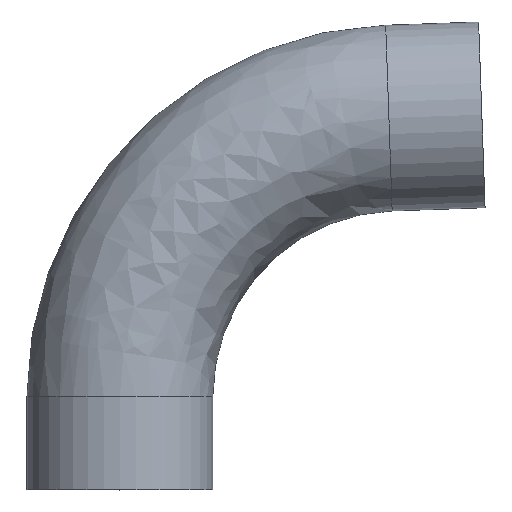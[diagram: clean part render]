
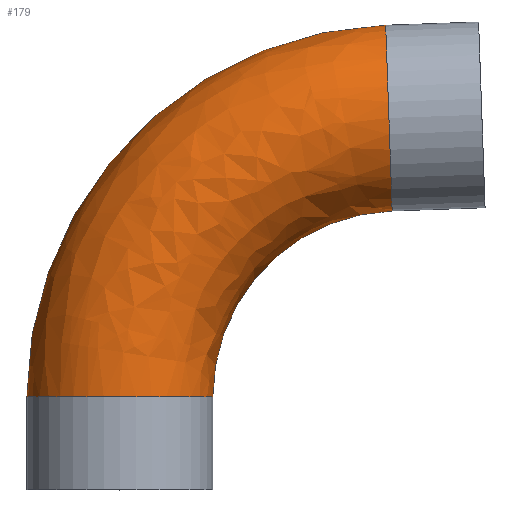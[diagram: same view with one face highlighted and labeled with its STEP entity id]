
A CAD part, top view. The second image highlights one B-rep face of the part: STEP entity #179.
In plain terms, the highlighted free-form (B-spline) face has degree [3, 3] with [4, 4] control points.
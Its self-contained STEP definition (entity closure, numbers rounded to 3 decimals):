
#3 = CIRCLE ( 'NONE', #109, 101.6 ) ;
#23 = CARTESIAN_POINT ( 'NONE',  ( 148.854, 152.437, 101.6 ) ) ;
#29 = AXIS2_PLACEMENT_3D ( 'NONE', #86, #103, #246 ) ;
#30 = EDGE_CURVE ( 'NONE', #445, #266, #177, .T. ) ;
#32 = FACE_OUTER_BOUND ( 'NONE', #452, .T. ) ;
#35 = CARTESIAN_POINT ( 'NONE',  ( 50.8, 50.899, 0. ) ) ;
#38 = CARTESIAN_POINT ( 'NONE',  ( 29.616, 249.935, 0. ) ) ;
#40 = CARTESIAN_POINT ( 'NONE',  ( -50.8, 166.662, 101.6 ) ) ;
#86 = CARTESIAN_POINT ( 'NONE',  ( 152.4, 50.899, 0. ) ) ;
#88 = ORIENTED_EDGE ( 'NONE', *, *, #255, .T. ) ;
#103 = DIRECTION ( 'NONE',  ( 0., 0., -1. ) ) ;
#109 = AXIS2_PLACEMENT_3D ( 'NONE', #353, #330, #365 ) ;
#116 = AXIS2_PLACEMENT_3D ( 'NONE', #390, #385, #393 ) ;
#129 = CIRCLE ( 'NONE', #29, 203.2 ) ;
#143 = ORIENTED_EDGE ( 'NONE', *, *, #30, .T. ) ;
#162 = CARTESIAN_POINT ( 'NONE',  ( 145.308, 253.975, 0. ) ) ;
#177 = CIRCLE ( 'NONE', #377, 50.8 ) ;
#179 = ADVANCED_FACE ( 'NONE', ( #32 ), #185, .T. ) ;
#182 = CIRCLE ( 'NONE', #116, 50.8 ) ;
#185 =( BOUNDED_SURFACE ( )  B_SPLINE_SURFACE ( 3, 3, ( 
 ( #187, #350, #38, #162 ),
 ( #190, #40, #336, #465 ),
 ( #405, #296, #441, #23 ),
 ( #309, #292, #275, #437 ) ),
 .UNSPECIFIED., .F., .F., .T. ) 
 B_SPLINE_SURFACE_WITH_KNOTS ( ( 4, 4 ),
 ( 4, 4 ),
 ( 0., 1. ),
 ( 0., 1. ),
 .UNSPECIFIED. ) 
 GEOMETRIC_REPRESENTATION_ITEM ( )  RATIONAL_B_SPLINE_SURFACE ( (
 ( 1., 0.813, 0.813, 1.),
 ( 0.333, 0.271, 0.271, 0.333),
 ( 0.333, 0.271, 0.271, 0.333),
 ( 1., 0.813, 0.813, 1.) ) ) 
 REPRESENTATION_ITEM ( '' )  SURFACE ( )  );
#187 = CARTESIAN_POINT ( 'NONE',  ( -50.8, 50.899, 0. ) ) ;
#190 = CARTESIAN_POINT ( 'NONE',  ( -50.8, 50.899, 101.6 ) ) ;
#227 = EDGE_CURVE ( 'NONE', #256, #266, #129, .T. ) ;
#236 = CARTESIAN_POINT ( 'NONE',  ( 148.854, 152.437, 0. ) ) ;
#246 = DIRECTION ( 'NONE',  ( -1., 0., 0. ) ) ;
#253 = CARTESIAN_POINT ( 'NONE',  ( -50.8, 50.899, 0. ) ) ;
#254 = DIRECTION ( 'NONE',  ( -0.035, 0.999, 0. ) ) ;
#255 = EDGE_CURVE ( 'NONE', #342, #445, #3, .T. ) ;
#256 = VERTEX_POINT ( 'NONE', #253 ) ;
#266 = VERTEX_POINT ( 'NONE', #339 ) ;
#269 = EDGE_CURVE ( 'NONE', #256, #342, #182, .T. ) ;
#275 = CARTESIAN_POINT ( 'NONE',  ( 91.008, 150.417, 0. ) ) ;
#282 = ORIENTED_EDGE ( 'NONE', *, *, #269, .T. ) ;
#292 = CARTESIAN_POINT ( 'NONE',  ( 50.8, 108.781, 0. ) ) ;
#296 = CARTESIAN_POINT ( 'NONE',  ( 50.8, 108.781, 101.6 ) ) ;
#309 = CARTESIAN_POINT ( 'NONE',  ( 50.8, 50.899, 0. ) ) ;
#326 = ORIENTED_EDGE ( 'NONE', *, *, #227, .F. ) ;
#330 = DIRECTION ( 'NONE',  ( 0., 0., -1. ) ) ;
#336 = CARTESIAN_POINT ( 'NONE',  ( 29.616, 249.935, 101.6 ) ) ;
#339 = CARTESIAN_POINT ( 'NONE',  ( 145.308, 253.975, 0. ) ) ;
#342 = VERTEX_POINT ( 'NONE', #35 ) ;
#344 = CARTESIAN_POINT ( 'NONE',  ( 147.081, 203.206, 0. ) ) ;
#350 = CARTESIAN_POINT ( 'NONE',  ( -50.8, 166.662, 0. ) ) ;
#353 = CARTESIAN_POINT ( 'NONE',  ( 152.4, 50.899, 0. ) ) ;
#365 = DIRECTION ( 'NONE',  ( -1., 0., 0. ) ) ;
#375 = DIRECTION ( 'NONE',  ( -0.999, -0.035, 0. ) ) ;
#377 = AXIS2_PLACEMENT_3D ( 'NONE', #344, #375, #254 ) ;
#385 = DIRECTION ( 'NONE',  ( 0., 1., 0. ) ) ;
#390 = CARTESIAN_POINT ( 'NONE',  ( 0., 50.899, 0. ) ) ;
#393 = DIRECTION ( 'NONE',  ( -1., 0., 0. ) ) ;
#405 = CARTESIAN_POINT ( 'NONE',  ( 50.8, 50.899, 101.6 ) ) ;
#437 = CARTESIAN_POINT ( 'NONE',  ( 148.854, 152.437, 0. ) ) ;
#441 = CARTESIAN_POINT ( 'NONE',  ( 91.008, 150.417, 101.6 ) ) ;
#445 = VERTEX_POINT ( 'NONE', #236 ) ;
#452 = EDGE_LOOP ( 'NONE', ( #282, #88, #143, #326 ) ) ;
#465 = CARTESIAN_POINT ( 'NONE',  ( 145.308, 253.975, 101.6 ) ) ;
